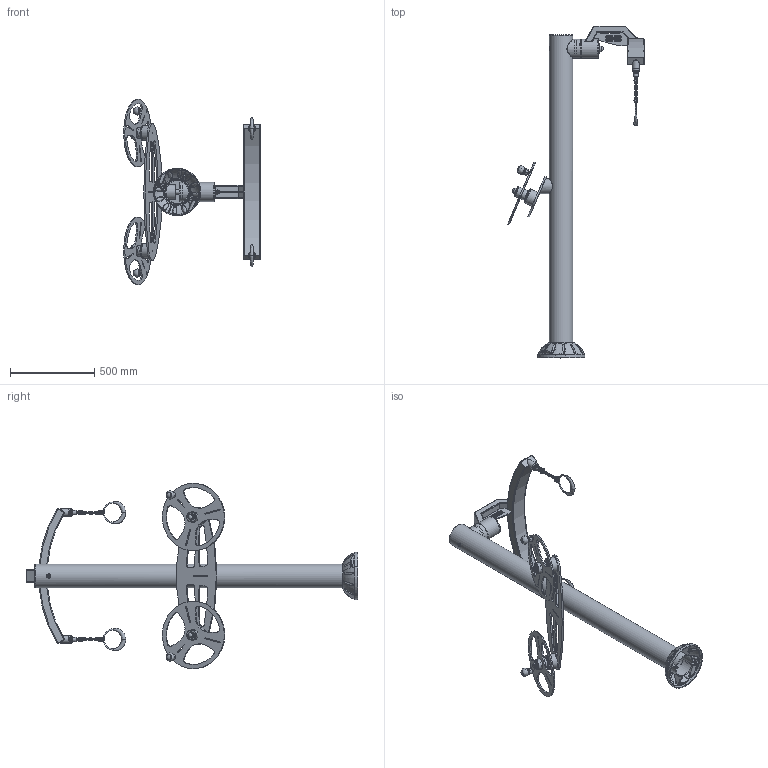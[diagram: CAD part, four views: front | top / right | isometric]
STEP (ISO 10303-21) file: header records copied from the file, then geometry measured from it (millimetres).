
FILE_DESCRIPTION (( 'STEP AP214' ), '1' );
FILE_NAME ('PMR0707 - PARAPENTE-VOLANTS PMR V1.1.STEP', '2017-02-08T22:34:25', ( '' ), ( '' ), 'SwSTEP 2.0', 'SolidWorks 2016', '' );
FILE_SCHEMA (( 'AUTOMOTIVE_DESIGN' ));
Length unit declared in the file: millimetre
Products named in the file (45): VOLANT-S0206 - VOLANT V1.1; TROCSDPP107-24 - Support double pions plat d.107 d.24 V1.0; SF1101 - Ecrou frein M10 A2; SBU1019 - Pion plat butée angulaire V1.1; TREBAL-S0204 - Tube balancier parapente V1.0; SR0439 - Rondelle plastique plate d.21 D.37 廧.3; TROSM-90-50 - Tube D.88,9x3 L=50 V1.0_Tube palier avant-v‚lo elliptique-sans soudure; TOLVOLA-S0206.B - Volant D.400 V1.2; TROSM90-120-23° - Tube D.88,9x3 L=120 coupe à 23° V1.0; SCH1807 - Chapeau 96x46 V1.0; TOLROND36-M10 - Rondelle D36 M10 V1.0; SF1113 - Ecrou M10 A2_default; TOLROND107-61 - Rondelle pour tube D.107 percée d.61 V1.0; PALIER-S0206 - PALIER VOLANTS V1.1; TROFAN-S0204A - Tube fixation anneau sur parapente V1.1; PALIER-S0204 - PALIER PARAPENTE ASS V1.1; TDRFIT-S0204 - Tole renfort Fitpark Parapente V1.0; SR0416 - Rondelle plate petite M10 A2 ext 22mm; SBU1025 - Butée cylindrique D.25 L=22 V1.0; TROCB1900PVOPMR - Colonne base haute D.139,7x3 Ht1900 pour parapente-volants PMR V1.0; TOLSUPVOL-S0206 - Support volants V2.2; SC0306B - Base pour capuchon en nylon 36mm; TROSM-50-23 - Tube D.50x2,5 L=23 V1.0; SA1421.A - Axe acier D.25mm L314 V1.1; PU-TOLGOPL - Gousset platine V2.0; TOLROND107-25 - Rondelle D.107 percée d.25 V1.0; TROSM-114-103 - Tube D.114,3x3 L=103 V1.0; SA1434 - Axe acier D.25 L147 V1.0; BATI-PMR0707 - BATI PARAPENTE-VOLANTS PMR V1.0; PU-TOLROND89-20 - Rondelle pour tube D.89 percée d.20 V1.0; SC0304 - Demi cache platine D140 V4.0; AN2500 - Anneau SWO V2.0_L25; SC0306C - Petit capuchon en nylon 36 mm; SBA1601 - Bague 6204 L60 V1.0; PLATINE BASE ASS V2.0; PMR0707 - PARAPENTE-VOLANTS PMR V1.1; SP0608 - Poignée plastique tournante ELESA 247011; SR0427 - Rondelle plastique bouchon bague D60 d.20; SC0307 - Capuchon vis 6 pans 5mm Bulte 35052; SC0304 - CACHE PLATINE ASS V4.0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
Assembly tree (79 placements, depth 4):
  PMR0707 - PARAPENTE-VOLANTS PMR V1.1
    BATI-PMR0707 - BATI PARAPENTE-VOLANTS PMR V1.0
      PLATINE BASE ASS V2.0
        PU-TOLGOPL - Gousset platine V2.0  x4
      PALIER-S0204 - PALIER PARAPENTE ASS V1.1
        TROSM-114-103 - Tube D.114,3x3 L=103 V1.0
        TROCSDPP107-24 - Support double pions plat d.107 d.24 V1.0
        SA1421.A - Axe acier D.25mm L314 V1.1
        SC0306B - Base pour capuchon en nylon 36mm
        SC0306C - Petit capuchon en nylon 36 mm
        SF1101 - Ecrou frein M10 A2
        SR0416 - Rondelle plate petite M10 A2 ext 22mm
        TOLROND107-25 - Rondelle D.107 percée d.25 V1.0
        SBU1019 - Pion plat butée angulaire V1.1  x2
        TROSM-50-23 - Tube D.50x2,5 L=23 V1.0
      TROCB1900PVOPMR - Colonne base haute D.139,7x3 Ht1900 pour parapente-volants PMR V1.0
      SCH1806.A - Chapeau D135 V1.0
      PALIER-S0206 - PALIER VOLANTS V1.1  x2
        TROSM-90-50 - Tube D.88,9x3 L=50 V1.0_Tube palier avant-v‚lo elliptique-sans soudure
        SA1434 - Axe acier D.25 L147 V1.0
        PU-TOLROND89-20 - Rondelle pour tube D.89 percée d.20 V1.0
      TROSM90-120-23° - Tube D.88,9x3 L=120 coupe à 23° V1.0
      TOLSUPVOL-S0206 - Support volants V2.2
    BALAN-S0204 - BALANCIER PARAPENTE V2.0
      TOLROND107-61 - Rondelle pour tube D.107 percée d.61 V1.0
      TROSM-114-103 - Tube D.114,3x3 L=103 V1.0
      SRR0816 - Roulement  6204 47-20-14  x2
      SR0427 - Rondelle plastique bouchon bague D60 d.20
      PU-TRETRAV840 - Tube rectangulaire cintré R750 100x50x3 L840 V1.0
      TDRFIT-S0204 - Tole renfort Fitpark Parapente V1.0
      TROFAN-S0204A - Tube fixation anneau sur parapente V1.1  x2
      TREBAL-S0204 - Tube balancier parapente V1.0
      SCH1807 - Chapeau 96x46 V1.0  x2
      SBU1019 - Pion plat butée angulaire V1.1
      TOLROND36-M10 - Rondelle D36 M10 V1.0  x2
      SR0439 - Rondelle plastique plate d.21 D.37 廧.3  x2
      AN2500 - Anneau SWO V2.0_L25  x2
    SC0304 - CACHE PLATINE ASS V4.0
      SC0304 - Demi cache platine D140 V4.0
      SB0112 - Vis Torx teton central M8x20_M8x20  x2
    VOLANT-S0206 - VOLANT V1.1  x2
      TOLVOLA-S0206.B - Volant D.400 V1.2
      SBA1601 - Bague 6204 L60 V1.0
    SR0427 - Rondelle plastique bouchon bague D60 d.20  x4
    SF1101 - Ecrou frein M10 A2  x2
    SC0306B - Base pour capuchon en nylon 36mm  x2
    SC0306C - Petit capuchon en nylon 36 mm  x2
    SRR0816 - Roulement  6204 47-20-14  x4
    SR0416 - Rondelle plate petite M10 A2 ext 22mm  x2
    SF1113 - Ecrou M10 A2_default  x2
    SP0608 - Poignée plastique tournante ELESA 247011  x2
    SC0307 - Capuchon vis 6 pans 5mm Bulte 35052  x2
    SBU1025 - Butée cylindrique D.25 L=22 V1.0  x2
Bounding box: 810.37 x 1970 x 1098.85 mm (x, y, z)
Volume: 7773568.7 mm3; surface area: 3830753 mm2
Topology: 116 solids, 116 shells, 2300 faces, 5300 edges, 3292 vertices
Faces by surface type: plane 696, cylinder 676, bspline 381, torus 222, cone 217, sphere 108
Full cylindrical faces by diameter (mm): 1.8 x2, 5.3 x2, 6 x46, 6.647 x2, 6.95 x2, 8 x2, 8.16 x2, 8.376 x6, 8.5 x6, 9.3 x2, 10 x15, 10.3 x2, 10.5 x7, 10.8 x6, 11 x1, 16.7 x8, 17 x3, 17.5 x2, 20 x9, 20.2 x7, 21 x2, 22 x10, 22.6 x1, 24 x2, 24.13 x1, 25 x5, 25.2 x1, 26 x3, 26.1 x12, 27 x2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
Entity records: 116088 total; most frequent: CARTESIAN_POINT 87084, ORIENTED_EDGE 5332, DIRECTION 4927, EDGE_CURVE 2666, AXIS2_PLACEMENT_3D 2016, VERTEX_POINT 1794, EDGE_LOOP 1704, FACE_OUTER_BOUND 1458
